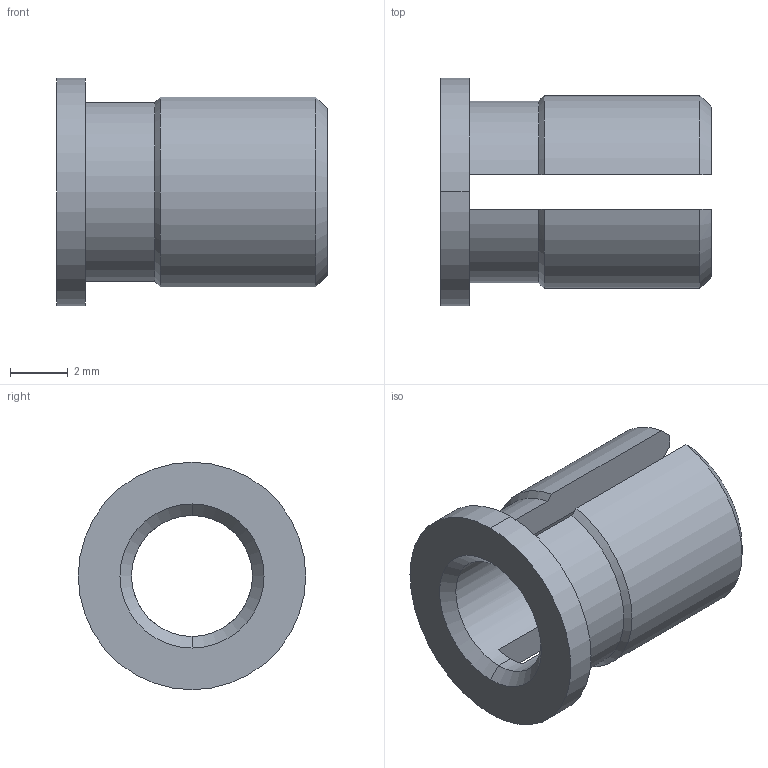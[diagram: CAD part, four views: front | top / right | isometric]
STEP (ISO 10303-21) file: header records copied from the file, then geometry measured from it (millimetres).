
FILE_DESCRIPTION (( 'STEP AP203' ), '1' );
FILE_NAME ('FSUK-EXPH-M05-S.STEP', '2021-04-15T15:02:11', ( '' ), ( '' ), 'SwSTEP 2.0', 'SolidWorks 2021', '' );
FILE_SCHEMA (( 'CONFIG_CONTROL_DESIGN' ));
Length unit declared in the file: millimetre
Products named in the file (1): FSUK-EXPH-M05-S
Bounding box: 9.4 x 7.9 x 7.9 mm (x, y, z)
Volume: 176.8 mm3; surface area: 387.8 mm2
Topology: 1 solids, 1 shells, 24 faces, 64 edges, 42 vertices
Faces by surface type: cylinder 8, cone 8, plane 8
Entity records: 851 total; most frequent: CARTESIAN_POINT 167, DIRECTION 128, ORIENTED_EDGE 128, EDGE_CURVE 64, AXIS2_PLACEMENT_3D 51, VERTEX_POINT 42, VECTOR 26, CIRCLE 26
